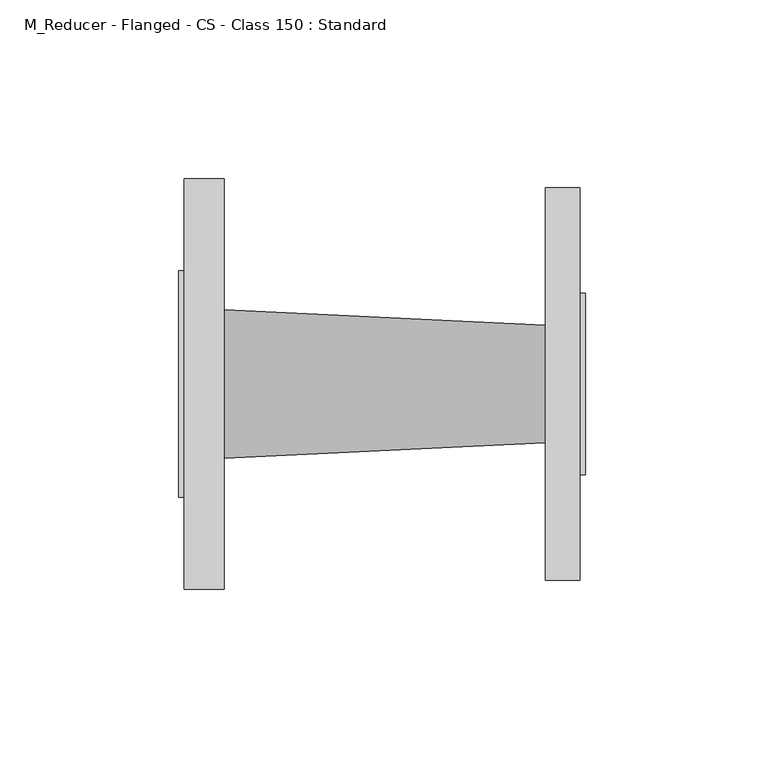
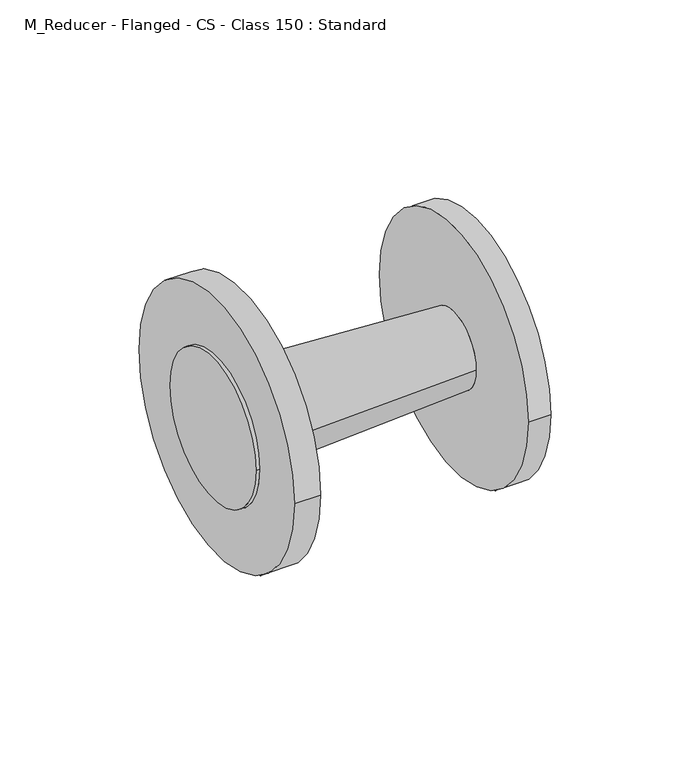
"""IFC4 building model written with IfcOpenShell, lengths in millimetres: pipe fitting geometry, M_Reducer - Flanged - CS - Class 150 : Standard."""

from ifc_helpers import new_model, si_unit, frame, origin, place, context, project, spatial, polyline, circle_curve, source, transform, mapped, element, save
from ifc_brep_helpers import plane_surface, cylinder_surface, revolved_surface, advanced_brep


def m_reducer_flanged_cs_class_150_standard_6ae1fdcb(model_context):
    return source(origin(), model_context, "Body", "AdvancedBrep", [
        advanced_brep(
        [(12.7875, 57.5, 0.0), (12.7875, -57.5, 0.0), (12.7875, -20.8, 0.0), (12.7875, 20.8, 0.0), (1.5875, 57.5, 0.0), (1.5875, -57.5, 0.0), (1.5875, 31.75, 0.0), (1.5875, -31.75, 0.0), (102.8125, 16.5, 0.0), (102.8125, -16.5, 0.0), (112.4125, 55.0, 0.0), (112.4125, -55.0, 0.0), (112.4125, -25.4, 0.0), (112.4125, 25.4, 0.0), (102.8125, 55.0, 0.0), (102.8125, -55.0, 0.0), (0.0, 31.75, 0.0), (0.0, -31.75, 0.0), (114.0, 25.4, 0.0), (114.0, -25.4, 0.0)],
        [
            (0, 1, circle_curve(frame((12.7875, 0.0, 0.0), z_axis=(1.0, 0.0, 0.0), x_axis=(0.0, -1.0, 0.0)), 57.5)),
            (1, 0, circle_curve(frame((12.7875, 0.0, 0.0), z_axis=(1.0, 0.0, 0.0), x_axis=(0.0, -1.0, 0.0)), 57.5)),
            (2, 3, circle_curve(frame((12.7875, 0.0, 0.0), z_axis=(-1.0, 0.0, 0.0), x_axis=(0.0, -1.0, 0.0)), 20.8)),
            (3, 2, circle_curve(frame((12.7875, 0.0, 0.0), z_axis=(-1.0, 0.0, 0.0), x_axis=(0.0, 1.0, 0.0)), 20.8)),
            (4, 5, circle_curve(frame((1.5875, 0.0, 0.0), z_axis=(-1.0, 0.0, 0.0), x_axis=(0.0, -1.0, 0.0)), 57.5)),
            (5, 4, circle_curve(frame((1.5875, 0.0, 0.0), z_axis=(-1.0, 0.0, 0.0), x_axis=(0.0, -1.0, 0.0)), 57.5)),
            (6, 7, circle_curve(frame((1.5875, 0.0, 0.0), z_axis=(1.0, 0.0, 0.0), x_axis=(0.0, -1.0, 0.0)), 31.75)),
            (7, 6, circle_curve(frame((1.5875, 0.0, 0.0), z_axis=(1.0, 0.0, 0.0), x_axis=(0.0, -1.0, 0.0)), 31.75)),
            (1, 5),
            (4, 0),
            (3, 8),
            (8, 9, circle_curve(frame((102.8125, 0.0, 0.0), z_axis=(-1.0, 0.0, 0.0), x_axis=(0.0, 1.0, 0.0)), 16.5)),
            (9, 2),
            (9, 8, circle_curve(frame((102.8125, 0.0, 0.0), z_axis=(-1.0, 0.0, 0.0), x_axis=(0.0, -1.0, 0.0)), 16.5)),
            (10, 11, circle_curve(frame((112.4125, 0.0, 0.0), z_axis=(1.0, 0.0, 0.0), x_axis=(0.0, -1.0, 0.0)), 55.0)),
            (11, 10, circle_curve(frame((112.4125, 0.0, 0.0), z_axis=(1.0, 0.0, 0.0), x_axis=(0.0, -1.0, 0.0)), 55.0)),
            (12, 13, circle_curve(frame((112.4125, 0.0, 0.0), z_axis=(-1.0, 0.0, 0.0), x_axis=(0.0, -1.0, 0.0)), 25.4)),
            (13, 12, circle_curve(frame((112.4125, 0.0, 0.0), z_axis=(-1.0, 0.0, 0.0), x_axis=(0.0, -1.0, 0.0)), 25.4)),
            (14, 15, circle_curve(frame((102.8125, 0.0, 0.0), z_axis=(-1.0, 0.0, 0.0), x_axis=(0.0, -1.0, 0.0)), 55.0)),
            (15, 14, circle_curve(frame((102.8125, 0.0, 0.0), z_axis=(-1.0, 0.0, 0.0), x_axis=(0.0, -1.0, 0.0)), 55.0)),
            (11, 15),
            (14, 10),
            (16, 17, circle_curve(frame((0.0, 0.0, 0.0), z_axis=(-1.0, 0.0, 0.0), x_axis=(0.0, -1.0, 0.0)), 31.75)),
            (17, 16, circle_curve(frame((0.0, 0.0, 0.0), z_axis=(-1.0, 0.0, 0.0), x_axis=(0.0, -1.0, 0.0)), 31.75)),
            (16, 6),
            (7, 17),
            (18, 19, circle_curve(frame((114.0, 0.0, 0.0), z_axis=(1.0, 0.0, 0.0), x_axis=(0.0, -1.0, 0.0)), 25.4)),
            (19, 18, circle_curve(frame((114.0, 0.0, 0.0), z_axis=(1.0, 0.0, 0.0), x_axis=(0.0, -1.0, 0.0)), 25.4)),
            (19, 12),
            (13, 18),
        ],
        [
            plane_surface(frame((12.7875, -57.5, 0.0), z_axis=(1.0, 0.0, 0.0), x_axis=(0.0, 0.0, 1.0))),
            plane_surface(frame((1.5875, -57.5, 0.0), z_axis=(-1.0, 0.0, 0.0), x_axis=(0.0, 0.0, -1.0))),
            cylinder_surface(frame((1.5875, 0.0, 0.0), z_axis=(1.0, 0.0, 0.0), x_axis=(0.0, -1.0, 0.0)), 57.5),
            revolved_surface(polyline([(102.8125, -16.499999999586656, 0.0), (12.787500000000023, -20.8, 0.0)]), (448.2572674, 0.0, 0.0), (-1.0, 0.0, 0.0)),
            revolved_surface(polyline([(102.8125, 16.499999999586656, 0.0), (12.787500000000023, 20.8, 0.0)]), (448.2572674, 0.0, 0.0), (-1.0, 0.0, 0.0)),
            plane_surface(frame((112.4125, -55.0, 0.0), z_axis=(1.0, 0.0, 0.0), x_axis=(0.0, 0.0, 1.0))),
            plane_surface(frame((102.8125, -55.0, 0.0), z_axis=(-1.0, 0.0, 0.0), x_axis=(0.0, 0.0, -1.0))),
            cylinder_surface(frame((102.8125, 0.0, 0.0), z_axis=(1.0, 0.0, 0.0), x_axis=(0.0, -1.0, 0.0)), 55.0),
            plane_surface(frame((0.0, -31.75, 0.0), z_axis=(-1.0, 0.0, 0.0), x_axis=(0.0, 0.0, -1.0))),
            cylinder_surface(frame((0.0, 0.0, 0.0), z_axis=(1.0, 0.0, 0.0), x_axis=(0.0, -1.0, 0.0)), 31.75),
            plane_surface(frame((114.0, -25.4, 0.0), z_axis=(1.0, 0.0, 0.0), x_axis=(0.0, 0.0, 1.0))),
            cylinder_surface(frame((112.4125, 0.0, 0.0), z_axis=(1.0, 0.0, 0.0), x_axis=(0.0, -1.0, 0.0)), 25.4),
        ],
        [
            (0, [[1, 2], [3, 4]]),
            (1, [[5, 6], [7, 8]]),
            (2, [[9, -5, 10, -2]]),
            (2, [[-10, -6, -9, -1]]),
            (3, [[-4, 11, 12, 13]]),
            (4, [[14, -11, -3, -13]]),
            (5, [[15, 16], [17, 18]]),
            (6, [[19, 20], [-14, -12]]),
            (7, [[21, -19, 22, -16]]),
            (7, [[-22, -20, -21, -15]]),
            (8, [[23, 24]]),
            (9, [[25, -8, 26, -23]]),
            (9, [[-26, -7, -25, -24]]),
            (10, [[27, 28]]),
            (11, [[29, -18, 30, -28]]),
            (11, [[-30, -17, -29, -27]]),
        ],
    ),
    ])


if __name__ == "__main__":
    model = new_model("IFC4")
    model_context = context("Model", 3, world=origin())
    ifc_project = project(units=[si_unit("LENGTHUNIT", "METRE", prefix="MILLI")], contexts=[model_context])
    site = spatial("IfcSite", under=ifc_project)
    building = spatial("IfcBuilding", under=site)
    placement = place(None, origin())
    m_reducer_flanged_cs_class_150_standard_shape = m_reducer_flanged_cs_class_150_standard_6ae1fdcb(model_context)
    element("IfcPipeFitting", 1, ObjectType="M_Reducer - Flanged - CS - Class 150 : Standard", at=placement, inside=building, context=model_context, shape_type="MappedRepresentation", body=[
        mapped(m_reducer_flanged_cs_class_150_standard_shape, transform((0.0, 0.0, 0.0), x_axis=(1.0, 0.0, 0.0), y_axis=(0.0, 1.0, 0.0), z_axis=(0.0, 0.0, 1.0))),
    ])
    save(model, "model.ifc")
